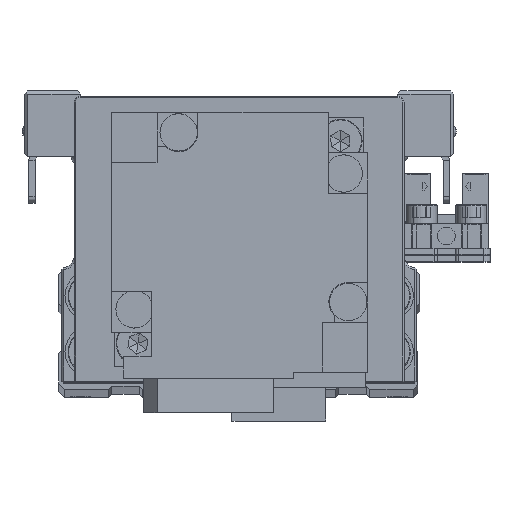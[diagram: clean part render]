
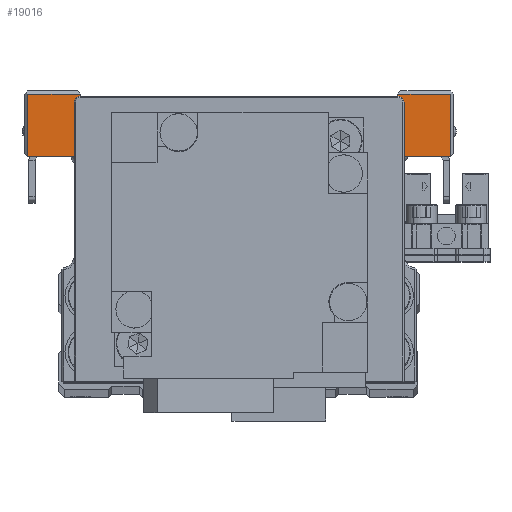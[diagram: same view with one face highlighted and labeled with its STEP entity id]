
A CAD part, top view. The second image highlights one B-rep face of the part: STEP entity #19016.
In plain terms, the highlighted planar face has unit normal (0, 0, 1) as drawn and (1, 0, 0) by its records, which use the part's own axes.
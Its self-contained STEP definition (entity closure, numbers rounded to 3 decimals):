
#62 = VECTOR ( 'NONE', #1123, 1000. ) ;
#688 = CARTESIAN_POINT ( 'NONE',  ( 25.5, 10.5, -25.5 ) ) ;
#716 = ORIENTED_EDGE ( 'NONE', *, *, #16788, .F. ) ;
#721 = DIRECTION ( 'NONE',  ( 0., 0.707, -0.707 ) ) ;
#1123 = DIRECTION ( 'NONE',  ( 0., 0., -1. ) ) ;
#1228 = LINE ( 'NONE', #12416, #8805 ) ;
#1747 = VECTOR ( 'NONE', #27617, 1000. ) ;
#2066 = ORIENTED_EDGE ( 'NONE', *, *, #11322, .T. ) ;
#3095 = VERTEX_POINT ( 'NONE', #25865 ) ;
#3447 = ORIENTED_EDGE ( 'NONE', *, *, #36137, .T. ) ;
#3640 = VERTEX_POINT ( 'NONE', #31063 ) ;
#3701 = CARTESIAN_POINT ( 'NONE',  ( 25.5, 15., 25.5 ) ) ;
#4046 = VERTEX_POINT ( 'NONE', #5515 ) ;
#4157 = VECTOR ( 'NONE', #21582, 1000. ) ;
#4290 = EDGE_CURVE ( 'NONE', #3640, #9384, #12963, .T. ) ;
#4834 = VERTEX_POINT ( 'NONE', #5382 ) ;
#4919 = CARTESIAN_POINT ( 'NONE',  ( 25.5, -6., 16.5 ) ) ;
#5090 = CARTESIAN_POINT ( 'NONE',  ( 25.5, 15., -25.5 ) ) ;
#5117 = DIRECTION ( 'NONE',  ( 0., -0.707, -0.707 ) ) ;
#5209 = LINE ( 'NONE', #16413, #1747 ) ;
#5309 = VECTOR ( 'NONE', #7396, 1000. ) ;
#5382 = CARTESIAN_POINT ( 'NONE',  ( 25.5, -6., -16.2 ) ) ;
#5515 = CARTESIAN_POINT ( 'NONE',  ( 25.5, 5., 16.5 ) ) ;
#5625 = LINE ( 'NONE', #16824, #26400 ) ;
#5818 = CARTESIAN_POINT ( 'NONE',  ( 25.5, 5., -16.5 ) ) ;
#6223 = EDGE_CURVE ( 'NONE', #4046, #16084, #34189, .T. ) ;
#6672 = DIRECTION ( 'NONE',  ( 0., 0., 1. ) ) ;
#6955 = EDGE_CURVE ( 'NONE', #16084, #25504, #19056, .T. ) ;
#7396 = DIRECTION ( 'NONE',  ( 0., 0., -1. ) ) ;
#7625 = VECTOR ( 'NONE', #6672, 1000. ) ;
#7702 = VECTOR ( 'NONE', #34245, 1000. ) ;
#8805 = VECTOR ( 'NONE', #23606, 1000. ) ;
#9054 = CARTESIAN_POINT ( 'NONE',  ( 25.5, 5., 16.5 ) ) ;
#9384 = VERTEX_POINT ( 'NONE', #9922 ) ;
#9461 = CARTESIAN_POINT ( 'NONE',  ( 25.5, 5., 34. ) ) ;
#9682 = EDGE_CURVE ( 'NONE', #4834, #28871, #14658, .T. ) ;
#9807 = CARTESIAN_POINT ( 'NONE',  ( 25.5, 10.5, 25.5 ) ) ;
#9922 = CARTESIAN_POINT ( 'NONE',  ( 25.5, 15., -34. ) ) ;
#10402 = CARTESIAN_POINT ( 'NONE',  ( 25.5, 5., -34.5 ) ) ;
#10534 = VERTEX_POINT ( 'NONE', #3701 ) ;
#10977 = ORIENTED_EDGE ( 'NONE', *, *, #18869, .F. ) ;
#11322 = EDGE_CURVE ( 'NONE', #21611, #10534, #5625, .T. ) ;
#11874 = LINE ( 'NONE', #23062, #7702 ) ;
#11876 = DIRECTION ( 'NONE',  ( 0., 1., 0. ) ) ;
#12167 = AXIS2_PLACEMENT_3D ( 'NONE', #5818, #17016, #28215 ) ;
#12416 = CARTESIAN_POINT ( 'NONE',  ( 25.5, 15., -25.5 ) ) ;
#12963 = LINE ( 'NONE', #24161, #28213 ) ;
#14071 = VECTOR ( 'NONE', #20224, 1000. ) ;
#14585 = EDGE_CURVE ( 'NONE', #9384, #20836, #1228, .T. ) ;
#14658 = LINE ( 'NONE', #25852, #27346 ) ;
#15067 = LINE ( 'NONE', #26252, #62 ) ;
#15143 = EDGE_CURVE ( 'NONE', #21611, #19002, #21331, .T. ) ;
#15777 = EDGE_CURVE ( 'NONE', #33111, #24969, #11874, .T. ) ;
#16084 = VERTEX_POINT ( 'NONE', #29155 ) ;
#16114 = DIRECTION ( 'NONE',  ( 0., 0., 1. ) ) ;
#16122 = CARTESIAN_POINT ( 'NONE',  ( 25.5, 15., 34. ) ) ;
#16300 = ORIENTED_EDGE ( 'NONE', *, *, #14585, .T. ) ;
#16413 = CARTESIAN_POINT ( 'NONE',  ( 25.5, 5., -16.5 ) ) ;
#16788 = EDGE_CURVE ( 'NONE', #3095, #28871, #5209, .T. ) ;
#16824 = CARTESIAN_POINT ( 'NONE',  ( 25.5, 10.5, 25.5 ) ) ;
#17016 = DIRECTION ( 'NONE',  ( -1., 0., 0. ) ) ;
#17076 = ORIENTED_EDGE ( 'NONE', *, *, #6223, .T. ) ;
#18298 = ORIENTED_EDGE ( 'NONE', *, *, #21009, .F. ) ;
#18521 = CARTESIAN_POINT ( 'NONE',  ( 25.5, -6., 16.2 ) ) ;
#18854 = ORIENTED_EDGE ( 'NONE', *, *, #31966, .T. ) ;
#18869 = EDGE_CURVE ( 'NONE', #4834, #25504, #30064, .T. ) ;
#19002 = VERTEX_POINT ( 'NONE', #28032 ) ;
#19016 = ADVANCED_FACE ( 'NONE', ( #19758 ), #30955, .F. ) ;
#19056 = LINE ( 'NONE', #30260, #25831 ) ;
#19758 = FACE_OUTER_BOUND ( 'NONE', #27358, .T. ) ;
#20224 = DIRECTION ( 'NONE',  ( 0., -1., 0. ) ) ;
#20601 = LINE ( 'NONE', #31799, #7625 ) ;
#20740 = ORIENTED_EDGE ( 'NONE', *, *, #6955, .T. ) ;
#20836 = VERTEX_POINT ( 'NONE', #5090 ) ;
#21009 = EDGE_CURVE ( 'NONE', #19002, #20836, #25819, .T. ) ;
#21331 = LINE ( 'NONE', #32526, #5309 ) ;
#21582 = DIRECTION ( 'NONE',  ( 0., 0., -1. ) ) ;
#21611 = VERTEX_POINT ( 'NONE', #9807 ) ;
#22104 = VECTOR ( 'NONE', #16114, 1000. ) ;
#23062 = CARTESIAN_POINT ( 'NONE',  ( 25.5, 5., 34. ) ) ;
#23606 = DIRECTION ( 'NONE',  ( 0., 0., 1. ) ) ;
#24161 = CARTESIAN_POINT ( 'NONE',  ( 25.5, 5., -34. ) ) ;
#24969 = VERTEX_POINT ( 'NONE', #9461 ) ;
#24983 = ORIENTED_EDGE ( 'NONE', *, *, #15143, .F. ) ;
#25340 = ORIENTED_EDGE ( 'NONE', *, *, #4290, .T. ) ;
#25504 = VERTEX_POINT ( 'NONE', #18521 ) ;
#25819 = LINE ( 'NONE', #688, #25920 ) ;
#25831 = VECTOR ( 'NONE', #5117, 1000. ) ;
#25852 = CARTESIAN_POINT ( 'NONE',  ( 25.5, -6., -16.2 ) ) ;
#25865 = CARTESIAN_POINT ( 'NONE',  ( 25.5, 5., -16.5 ) ) ;
#25920 = VECTOR ( 'NONE', #11876, 1000. ) ;
#26252 = CARTESIAN_POINT ( 'NONE',  ( 25.5, 5., -34.5 ) ) ;
#26400 = VECTOR ( 'NONE', #28019, 1000. ) ;
#27346 = VECTOR ( 'NONE', #721, 1000. ) ;
#27358 = EDGE_LOOP ( 'NONE', ( #2066, #18854, #28167, #3447, #17076, #20740, #10977, #30355, #716, #32454, #25340, #16300, #18298, #24983 ) ) ;
#27617 = DIRECTION ( 'NONE',  ( 0., -1., 0. ) ) ;
#28019 = DIRECTION ( 'NONE',  ( 0., 1., 0. ) ) ;
#28032 = CARTESIAN_POINT ( 'NONE',  ( 25.5, 10.5, -25.5 ) ) ;
#28167 = ORIENTED_EDGE ( 'NONE', *, *, #15777, .T. ) ;
#28213 = VECTOR ( 'NONE', #35348, 1000. ) ;
#28215 = DIRECTION ( 'NONE',  ( 0., 0., 1. ) ) ;
#28871 = VERTEX_POINT ( 'NONE', #34347 ) ;
#29155 = CARTESIAN_POINT ( 'NONE',  ( 25.5, -5.7, 16.5 ) ) ;
#30064 = LINE ( 'NONE', #4919, #22104 ) ;
#30260 = CARTESIAN_POINT ( 'NONE',  ( 25.5, -6., 16.2 ) ) ;
#30355 = ORIENTED_EDGE ( 'NONE', *, *, #9682, .T. ) ;
#30955 = PLANE ( 'NONE',  #12167 ) ;
#31063 = CARTESIAN_POINT ( 'NONE',  ( 25.5, 5., -34. ) ) ;
#31799 = CARTESIAN_POINT ( 'NONE',  ( 25.5, 15., 34. ) ) ;
#31966 = EDGE_CURVE ( 'NONE', #10534, #33111, #20601, .T. ) ;
#32454 = ORIENTED_EDGE ( 'NONE', *, *, #32496, .T. ) ;
#32496 = EDGE_CURVE ( 'NONE', #3095, #3640, #35522, .T. ) ;
#32526 = CARTESIAN_POINT ( 'NONE',  ( 25.5, 10.5, -25.5 ) ) ;
#33111 = VERTEX_POINT ( 'NONE', #16122 ) ;
#34189 = LINE ( 'NONE', #9054, #14071 ) ;
#34245 = DIRECTION ( 'NONE',  ( 0., -1., 0. ) ) ;
#34347 = CARTESIAN_POINT ( 'NONE',  ( 25.5, -5.7, -16.5 ) ) ;
#35348 = DIRECTION ( 'NONE',  ( 0., 1., 0. ) ) ;
#35522 = LINE ( 'NONE', #10402, #4157 ) ;
#36137 = EDGE_CURVE ( 'NONE', #24969, #4046, #15067, .T. ) ;
